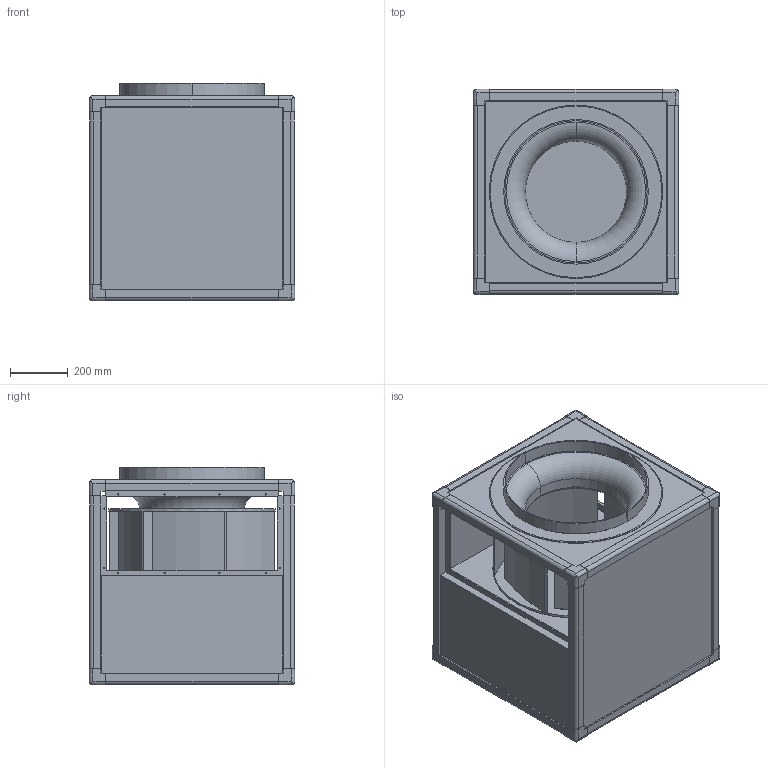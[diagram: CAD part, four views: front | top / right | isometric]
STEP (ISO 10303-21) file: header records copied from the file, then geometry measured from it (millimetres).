
FILE_DESCRIPTION(('STEP AP214'),'1');
FILE_NAME('fan_5148466400.stp','2017-09-06T16:17:50',('TraceParts'),('TraceParts S.A.'),'Spatial InterOp 3D',' ',' ');
FILE_SCHEMA(('automotive_design'));
Length unit declared in the file: millimetre
Products named in the file (1): fan_5148466400
Bounding box: 710 x 710 x 753 mm (x, y, z)
Volume: 88156028.8 mm3; surface area: 7664932.5 mm2
Topology: 1 solids, 1 shells, 884 faces, 2615 edges, 1703 vertices
Faces by surface type: plane 766, cylinder 112, torus 6
Entity records: 33112 total; most frequent: ORIENTED_EDGE 5230, CARTESIAN_POINT 5203, DIRECTION 4642, EDGE_CURVE 2615, LINE 2358, VECTOR 2358, VERTEX_POINT 1703, EDGE_LOOP 1164
